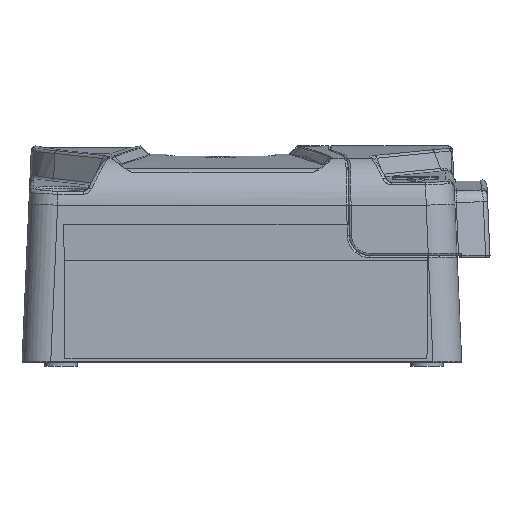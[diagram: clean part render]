
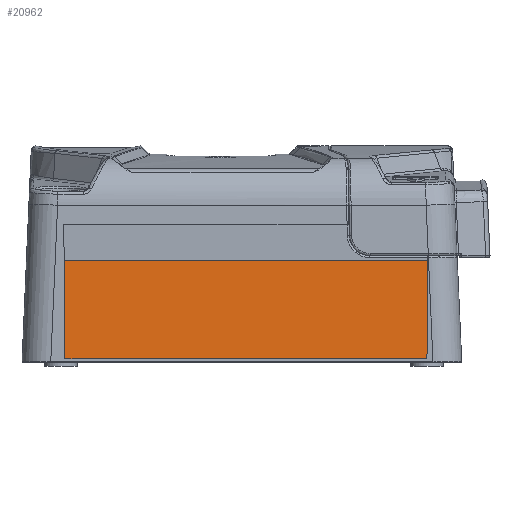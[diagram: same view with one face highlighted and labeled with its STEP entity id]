
A CAD part, left-side view. The second image highlights one B-rep face of the part: STEP entity #20962.
In plain terms, the highlighted planar face has unit normal (-0.999, 0, 0.044).
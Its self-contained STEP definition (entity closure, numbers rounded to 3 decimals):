
#2633=ORIENTED_EDGE('',*,*,#9117,.F.);
#2634=ORIENTED_EDGE('',*,*,#9115,.F.);
#2635=ORIENTED_EDGE('',*,*,#9107,.F.);
#2636=ORIENTED_EDGE('',*,*,#9146,.F.);
#9107=EDGE_CURVE('',#12364,#12365,#14386,.T.);
#9115=EDGE_CURVE('',#12365,#12370,#14392,.T.);
#9117=EDGE_CURVE('',#12370,#12371,#14394,.T.);
#9146=EDGE_CURVE('',#12371,#12364,#14401,.T.);
#12364=VERTEX_POINT('',#29738);
#12365=VERTEX_POINT('',#29740);
#12370=VERTEX_POINT('',#29759);
#12371=VERTEX_POINT('',#29763);
#14386=LINE('',#29739,#15965);
#14392=LINE('',#29758,#15971);
#14394=LINE('',#29762,#15973);
#14401=LINE('',#29862,#15980);
#15965=VECTOR('',#24298,1000.);
#15971=VECTOR('',#24312,1000.);
#15973=VECTOR('',#24316,1000.);
#15980=VECTOR('',#24355,1000.);
#17529=EDGE_LOOP('',(#2633,#2634,#2635,#2636));
#18967=FACE_BOUND('',#17529,.T.);
#20401=PLANE('',#22376);
#20962=ADVANCED_FACE('',(#18967),#20401,.F.);
#22376=AXIS2_PLACEMENT_3D('',#29861,#24353,#24354);
#24298=DIRECTION('',(-0.044,0.009,-0.999));
#24312=DIRECTION('',(0.,1.,0.));
#24316=DIRECTION('',(0.044,0.009,0.999));
#24353=DIRECTION('',(0.999,0.,-0.044));
#24354=DIRECTION('',(-0.044,0.,-0.999));
#24355=DIRECTION('',(0.,-1.,0.));
#29738=CARTESIAN_POINT('',(-75.826,2.991,2.185));
#29739=CARTESIAN_POINT('',(-76.873,3.2,-21.792));
#29740=CARTESIAN_POINT('',(-76.873,3.2,-21.792));
#29758=CARTESIAN_POINT('',(-76.873,3.2,-21.792));
#29759=CARTESIAN_POINT('',(-76.873,91.2,-21.792));
#29762=CARTESIAN_POINT('',(-76.873,91.2,-21.792));
#29763=CARTESIAN_POINT('',(-75.826,91.409,2.185));
#29861=CARTESIAN_POINT('',(-76.803,-5.3,-20.197));
#29862=CARTESIAN_POINT('',(-75.826,47.2,2.185));
